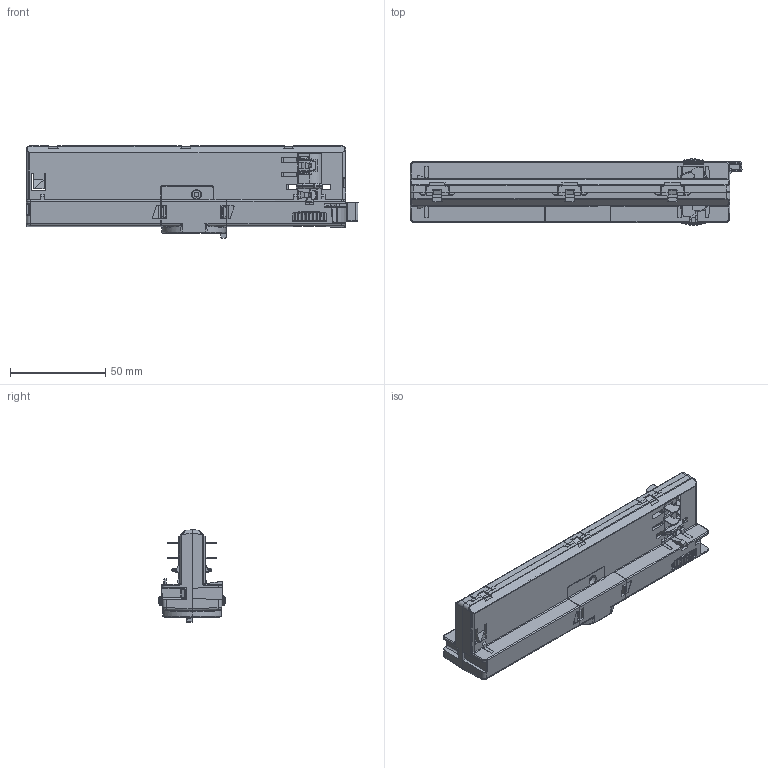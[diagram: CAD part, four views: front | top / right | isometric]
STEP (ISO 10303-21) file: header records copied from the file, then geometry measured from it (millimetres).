
FILE_DESCRIPTION((''),'2;1');
FILE_NAME('15014858Z_DATAMEC_INTRACK','2021-12-01T16:50:46',('elon.guo'),(''),'CREO PARAMETRIC BY PTC INC, 2021184','CREO PARAMETRIC BY PTC INC, 2021184','');
FILE_SCHEMA(('CONFIG_CONTROL_DESIGN'));
Products named in the file (1): 15014858Z_DATAMEC_INTRACK
Bounding box: 174.35 x 34.98 x 48.41 mm (x, y, z)
Volume: 33156.6 mm3; surface area: 72580 mm2
Topology: 5 solids, 12 shells, 4659 faces, 13589 edges, 8794 vertices
Faces by surface type: plane 2036, cylinder 1414, bspline 852, torus 181, cone 132, sphere 39, extrusion 5
Entity records: 503581 total; most frequent: CARTESIAN_POINT 389424, ORIENTED_EDGE 26866, DIRECTION 19432, EDGE_CURVE 13532, VERTEX_POINT 8794, VECTOR 7028, LINE 7023, AXIS2_PLACEMENT_3D 6202
